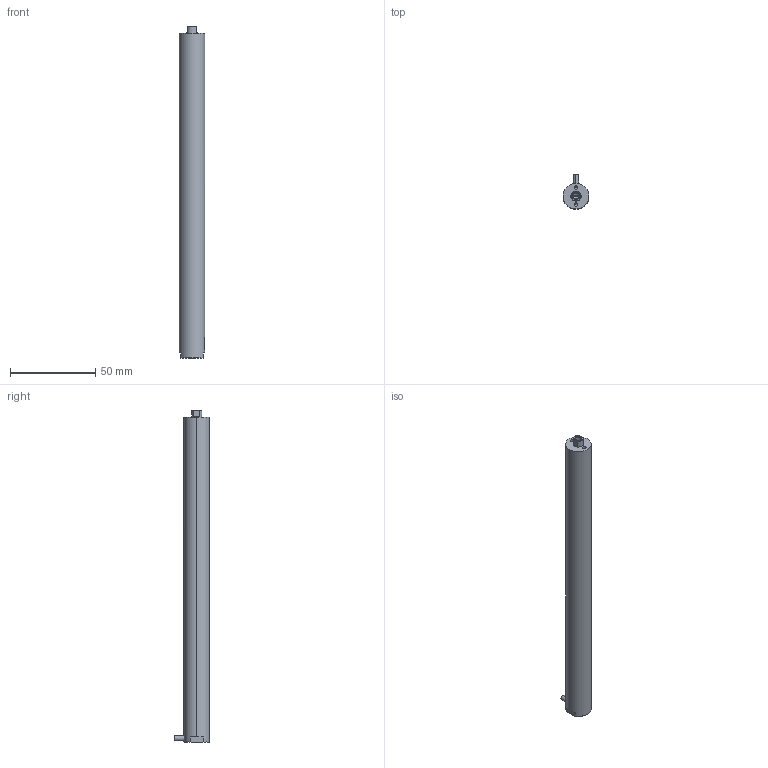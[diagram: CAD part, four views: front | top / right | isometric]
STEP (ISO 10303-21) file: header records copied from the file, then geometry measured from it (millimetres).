
FILE_DESCRIPTION (( 'STEP AP203' ), '1' );
FILE_NAME ('200VS15囀蹟恇.STEP', '2024-11-30T07:54:11', ( 'daohangxitong.com' ), ( 'daohangxitong.com' ), 'SwSTEP 2.0', 'SolidWorks 2016', '' );
FILE_SCHEMA (( 'CONFIG_CONTROL_DESIGN' ));
Length unit declared in the file: millimetre
Products named in the file (1): 200VS15囀蹟恇
Bounding box: 15 x 20.5 x 194.8 mm (x, y, z)
Volume: 33697.8 mm3; surface area: 9579.9 mm2
Topology: 1 solids, 1 shells, 952 faces, 2736 edges, 1816 vertices
Faces by surface type: bspline 836, cylinder 51, plane 49, cone 16
Entity records: 51712 total; most frequent: CARTESIAN_POINT 34232, ORIENTED_EDGE 5456, EDGE_CURVE 2728, B_SPLINE_CURVE_WITH_KNOTS 2562, VERTEX_POINT 1816, EDGE_LOOP 990, ADVANCED_FACE 952, FACE_OUTER_BOUND 952
